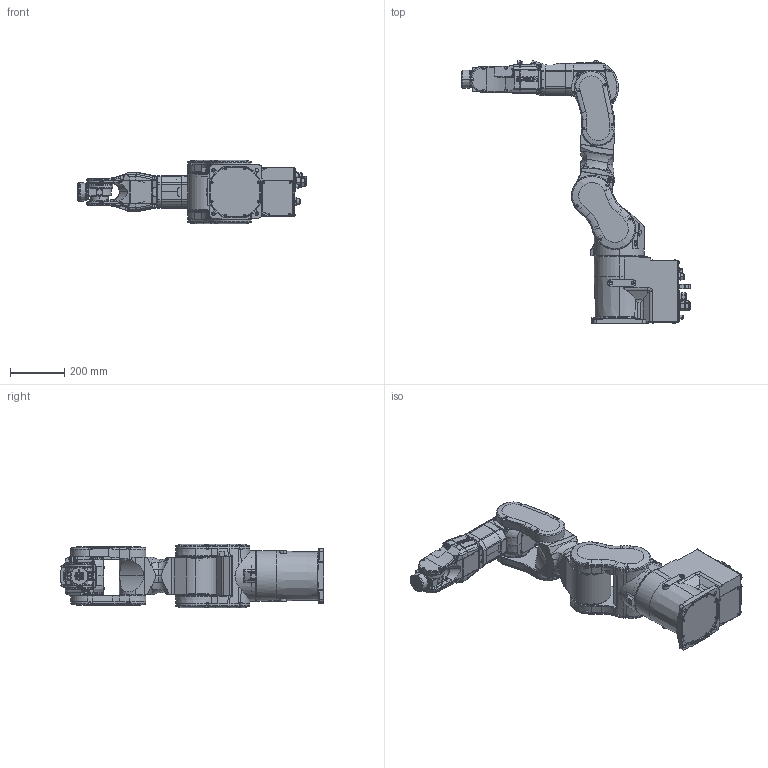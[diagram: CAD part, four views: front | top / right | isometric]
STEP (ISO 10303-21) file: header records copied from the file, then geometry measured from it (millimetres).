
FILE_DESCRIPTION (( 'STEP AP214' ), '1' );
FILE_NAME ('C8-x901C.STEP', '2025-08-25T22:42:45', ( '' ), ( '' ), 'SwSTEP 2.0', 'SolidWorks 2020', '' );
FILE_SCHEMA (( 'AUTOMOTIVE_DESIGN' ));
Length unit declared in the file: millimetre
Products named in the file (8): J5_C8S-5_1_2_3_4_5_6; J3_C8LS__4_-3; J2_C8LC-2; J4_C8LS-4; BASE_C8CR-B; J6_C8S-6_1_2_3_4_5_6; C8-x901C; J1_C8S-1_1_2_3_4_5_6
Assembly tree (7 placements, depth 2):
  C8-x901C
    BASE_C8CR-B
    J1_C8S-1_1_2_3_4_5_6
    J2_C8LC-2
    J3_C8LS__4_-3
    J4_C8LS-4
    J5_C8S-5_1_2_3_4_5_6
    J6_C8S-6_1_2_3_4_5_6
Bounding box: 842 x 972.5 x 236 mm (x, y, z)
Volume: 22768135 mm3; surface area: 1679214.4 mm2
Topology: 5 solids, 9 shells, 4116 faces, 10451 edges, 6692 vertices
Faces by surface type: plane 1724, cylinder 1357, cone 578, torus 338, sphere 77, bspline 42
Entity records: 178177 total; most frequent: CARTESIAN_POINT 71635, ORIENTED_EDGE 20764, DIRECTION 16297, EDGE_CURVE 10395, VERTEX_POINT 6692, AXIS2_PLACEMENT_3D 6554, B_SPLINE_CURVE_WITH_KNOTS 4653, EDGE_LOOP 4542
